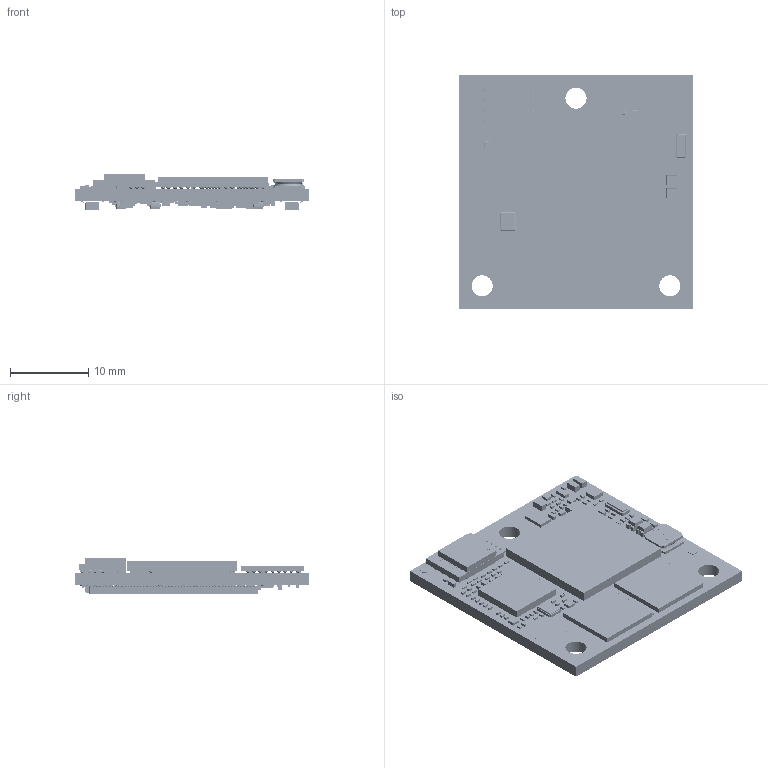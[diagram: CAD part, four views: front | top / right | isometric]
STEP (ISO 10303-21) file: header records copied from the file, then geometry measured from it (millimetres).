
FILE_DESCRIPTION(('STEP AP214'),'1');
FILE_NAME('Board1_BoardAndModels.step','2026-02-12T08:31:02',(' '),(' '),'Spatial InterOp 3D','XD3DPlugin XRACreate',' ');
FILE_SCHEMA(('automotive_design'));
Length unit declared in the file: millimetre
Products named in the file (140): Submodel-C:\Users\ermolenko\Desktop\Neuer Ordner\1569-1j-VX25\1569-1j-VX25\PCB\Layout\3D\Input_S\C0402C270F5GAC_0.xtd; C0402C270F5GAC_0; Submodel-CAP1313_part_simplified_0402-C3; DesignRootModel; Submodel-C:\Users\ermolenko\Desktop\Neuer Ordner\1569-1j-VX25\1569-1j-VX25\PCB\Layout\3D\Input_S\0201YC101KAZ2A.xtd; 0201YC101KAZ2A; Submodel-CAP3713_part_simplified_0201; Submodel-C:\Users\ermolenko\Desktop\Neuer Ordner\1569-1j-VX25\1569-1j-VX25\PCB\Layout\3D\Input_S\CRCW020110R7JNEF.xtd; CRCW020110R7JNEF; Submodel-RES5653_part_simplified_0201; Submodel-CAP3843_part_simplified_0201; Submodel-C:\Users\ermolenko\Desktop\Neuer Ordner\1569-1j-VX25\1569-1j-VX25\PCB\Layout\3D\Input_S\RC0603F1005CS.xtd; RC0603F1005CS; Submodel-RES5803_part_simplified_0201; Submodel-C:\Users\ermolenko\Desktop\Neuer Ordner\1569-1j-VX25\1569-1j-VX25\PCB\Layout\3D\Input_S\TRANSISTOR932.xtd; TRANSISTOR932; Submodel-TRANSISTOR932_part_simplified_DFN-0806-3; Submodel-RES6403_part_simplified_0201; Submodel-C:\Users\ermolenko\Desktop\Neuer Ordner\1569-1j-VX25\1569-1j-VX25\PCB\Layout\3D\Input_S\BLM15BD471SN1D.xtd; BLM15BD471SN1D; Submodel-FILTER92_part_simplified_0402-C3; Submodel-C:\Users\ermolenko\Desktop\Neuer Ordner\1569-1j-VX25\1569-1j-VX25\PCB\Layout\3D\Input_S\JUMP343.xtd; JUMP343; Submodel-JUMP343_part_simplified_J1X3-0201; Submodel-C:\Users\ermolenko\Desktop\Neuer Ordner\1569-1j-VX25\1569-1j-VX25\PCB\Layout\3D\Input_S\DIODE1713.xtd; DIODE1713; Submodel-DIODE1713_part_simplified_0201-WLL; Submodel-RES5643_part_simplified_0201; Submodel-C:\Users\ermolenko\Desktop\Neuer Ordner\1569-1j-VX25\1569-1j-VX25\PCB\Layout\3D\Input_S\GMC10X7R104K100NT.xtd; GMC10X7R104K100NT; Submodel-CAP2603_part_simplified_0603-C3; Submodel-C:\Users\ermolenko\Desktop\Neuer Ordner\1569-1j-VX25\1569-1j-VX25\PCB\Layout\3D\Input_S\EEPROM202.xtd; EEPROM202; Submodel-EEPROM202_part_simplified_DFN8-50-EP1_comma_2x1_comma_2; Submodel-C:\Users\ermolenko\Desktop\Neuer Ordner\1569-1j-VX25\1569-1j-VX25\PCB\Layout\3D\Input_S\REMOVE_MECH243.xtd; REMOVE_MECH243; Submodel-MECH243_part_simplified_Fiducial-square; Submodel-C:\Users\ermolenko\Desktop\Neuer Ordner\1569-1j-VX25\1569-1j-VX25\PCB\Layout\3D\Input_S\ICGEN4763_DPW0005A.xtd; ICGEN4763_DPW0005A; Submodel-ICGEN4763_part_simplified_X2SON-5-DPW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
Assembly tree (469 placements, depth 5):
  Board1_BoardAndModels
    DesignRootModel
      Submodel-CAP1313_part_simplified_0402-C3  x16
        Submodel-C:\Users\ermolenko\Desktop\Neuer Ordner\1569-1j-VX25\1569-1j-VX25\PCB\Layout\3D\Input_S\C0402C270F5GAC_0.xtd
          C0402C270F5GAC_0
      Submodel-CAP3713_part_simplified_0201  x63
        Submodel-C:\Users\ermolenko\Desktop\Neuer Ordner\1569-1j-VX25\1569-1j-VX25\PCB\Layout\3D\Input_S\0201YC101KAZ2A.xtd
          0201YC101KAZ2A
      Submodel-RES5653_part_simplified_0201  x18
        Submodel-C:\Users\ermolenko\Desktop\Neuer Ordner\1569-1j-VX25\1569-1j-VX25\PCB\Layout\3D\Input_S\CRCW020110R7JNEF.xtd
          CRCW020110R7JNEF
      Submodel-CAP3843_part_simplified_0201  x23
        Submodel-C:\Users\ermolenko\Desktop\Neuer Ordner\1569-1j-VX25\1569-1j-VX25\PCB\Layout\3D\Input_S\0201YC101KAZ2A.xtd
          0201YC101KAZ2A
      Submodel-RES5803_part_simplified_0201  x41
        Submodel-C:\Users\ermolenko\Desktop\Neuer Ordner\1569-1j-VX25\1569-1j-VX25\PCB\Layout\3D\Input_S\RC0603F1005CS.xtd
          RC0603F1005CS
      Submodel-TRANSISTOR932_part_simplified_DFN-0806-3  x7
        Submodel-C:\Users\ermolenko\Desktop\Neuer Ordner\1569-1j-VX25\1569-1j-VX25\PCB\Layout\3D\Input_S\TRANSISTOR932.xtd
          TRANSISTOR932
      Submodel-RES6403_part_simplified_0201  x13
        Submodel-C:\Users\ermolenko\Desktop\Neuer Ordner\1569-1j-VX25\1569-1j-VX25\PCB\Layout\3D\Input_S\RC0603F1005CS.xtd
          RC0603F1005CS
      Submodel-FILTER92_part_simplified_0402-C3  x6
        Submodel-C:\Users\ermolenko\Desktop\Neuer Ordner\1569-1j-VX25\1569-1j-VX25\PCB\Layout\3D\Input_S\BLM15BD471SN1D.xtd
          BLM15BD471SN1D
      Submodel-JUMP343_part_simplified_J1X3-0201  x14
        Submodel-C:\Users\ermolenko\Desktop\Neuer Ordner\1569-1j-VX25\1569-1j-VX25\PCB\Layout\3D\Input_S\JUMP343.xtd
          JUMP343
      Submodel-DIODE1713_part_simplified_0201-WLL  x4
        Submodel-C:\Users\ermolenko\Desktop\Neuer Ordner\1569-1j-VX25\1569-1j-VX25\PCB\Layout\3D\Input_S\DIODE1713.xtd
          DIODE1713
      Submodel-RES5643_part_simplified_0201  x3
        Submodel-C:\Users\ermolenko\Desktop\Neuer Ordner\1569-1j-VX25\1569-1j-VX25\PCB\Layout\3D\Input_S\RC0603F1005CS.xtd
          RC0603F1005CS
      Submodel-CAP2603_part_simplified_0603-C3  x7
        Submodel-C:\Users\ermolenko\Desktop\Neuer Ordner\1569-1j-VX25\1569-1j-VX25\PCB\Layout\3D\Input_S\GMC10X7R104K100NT.xtd
          GMC10X7R104K100NT
      Submodel-EEPROM202_part_simplified_DFN8-50-EP1_comma_2x1_comma_2
        Submodel-C:\Users\ermolenko\Desktop\Neuer Ordner\1569-1j-VX25\1569-1j-VX25\PCB\Layout\3D\Input_S\EEPROM202.xtd
          EEPROM202
      Submodel-MECH243_part_simplified_Fiducial-square  x2
        Submodel-C:\Users\ermolenko\Desktop\Neuer Ordner\1569-1j-VX25\1569-1j-VX25\PCB\Layout\3D\Input_S\REMOVE_MECH243.xtd
          REMOVE_MECH243
      Submodel-ICGEN4763_part_simplified_X2SON-5-DPW
        Submodel-C:\Users\ermolenko\Desktop\Neuer Ordner\1569-1j-VX25\1569-1j-VX25\PCB\Layout\3D\Input_S\ICGEN4763_DPW0005A.xtd
          ICGEN4763_DPW0005A
      Submodel-RES5693_part_simplified_0201  x4
        Submodel-C:\Users\ermolenko\Desktop\Neuer Ordner\1569-1j-VX25\1569-1j-VX25\PCB\Layout\3D\Input_S\RC0603F1005CS.xtd
          RC0603F1005CS
      Submodel-RES5673_part_simplified_0201  x45
        Submodel-C:\Users\ermolenko\Desktop\Neuer Ordner\1569-1j-VX25\1569-1j-VX25\PCB\Layout\3D\Input_S\RC0603F1005CS.xtd
          RC0603F1005CS
      Submodel-ICGEN3633_part_simplified_QFNQ12-40-SLG46110
        Submodel-C:\Users\ermolenko\Desktop\Neuer Ordner\1569-1j-VX25\1569-1j-VX25\PCB\Layout\3D\Input_S\ICGEN3633.xtd
          ICGEN3633
      Submodel-LOGIC602_part_simplified_SC70-6-65-C3  x2
        Submodel-C:\Users\ermolenko\Desktop\Neuer Ordner\1569-1j-VX25\1569-1j-VX25\PCB\Layout\3D\Input_S\LOGIC602_DCK0006A.xtd
          LOGIC602_DCK0006A
      Submodel-MECH233_part_simplified_Fiducial-round  x2
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Bounding box: 30 x 30 x 4.71 mm (x, y, z)
Volume: 1981.3 mm3; surface area: 4672.5 mm2
Topology: 997 solids, 997 shells, 10284 faces, 26834 edges, 17745 vertices
Faces by surface type: plane 7645, cylinder 1549, sphere 966, bspline 62, torus 42, cone 20
Full cylindrical faces by diameter (mm): 2.7 x3
Entity records: 261013 total; most frequent: CARTESIAN_POINT 36515, DIRECTION 33681, ORIENTED_EDGE 31938, EDGE_CURVE 15969, LINE 11727, VECTOR 11727, AXIS2_PLACEMENT_3D 10977, VERTEX_POINT 10727
